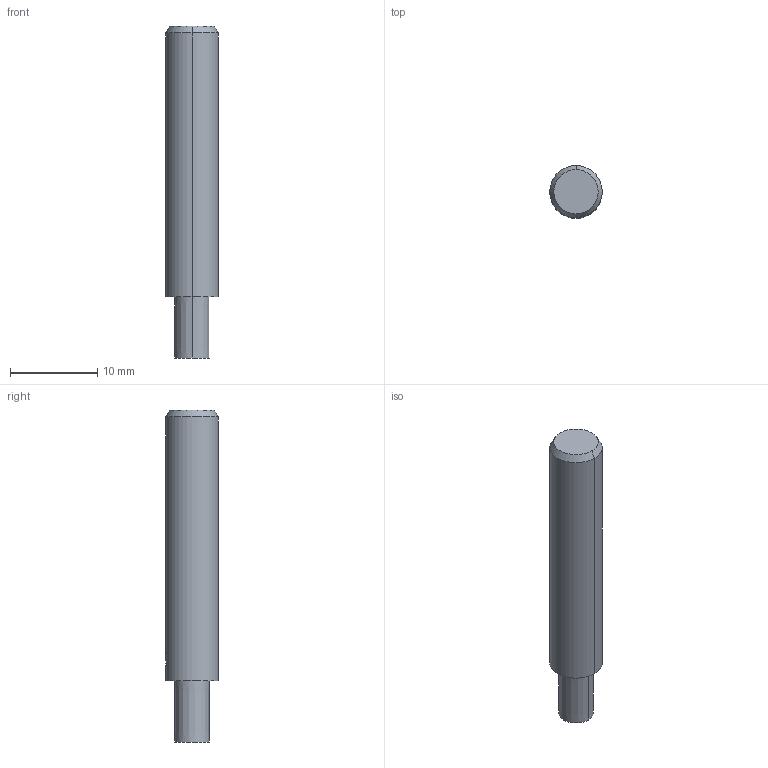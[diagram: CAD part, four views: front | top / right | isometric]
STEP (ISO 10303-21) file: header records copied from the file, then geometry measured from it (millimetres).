
FILE_DESCRIPTION(('no description'),'unknown implementation level');
FILE_NAME('solidLiBhKiFy03dmxgLNxf4Jp17X3j8_1.STP',' ',('CIMSOURCE GmbH'),('CADClick - KiM GmbH - www.kimweb.de'),'unknown preprocess','ACIS','unknown authorization');
FILE_SCHEMA(('automotive_design'));
Length unit declared in the file: millimetre
Products named in the file (2): NOCUT; CUT
Bounding box: 6 x 6 x 38 mm (x, y, z)
Volume: 961 mm3; surface area: 748 mm2
Topology: 2 solids, 2 shells, 23 faces, 55 edges, 36 vertices
Faces by surface type: cylinder 10, plane 9, cone 4
Entity records: 1560 total; most frequent: CARTESIAN_POINT 336, STYLED_ITEM 116, PRESENTATION_STYLE_ASSIGNMENT 116, COLOUR_RGB 116, DIRECTION 115, ORIENTED_EDGE 110, EDGE_CURVE 55, CURVE_STYLE 55
